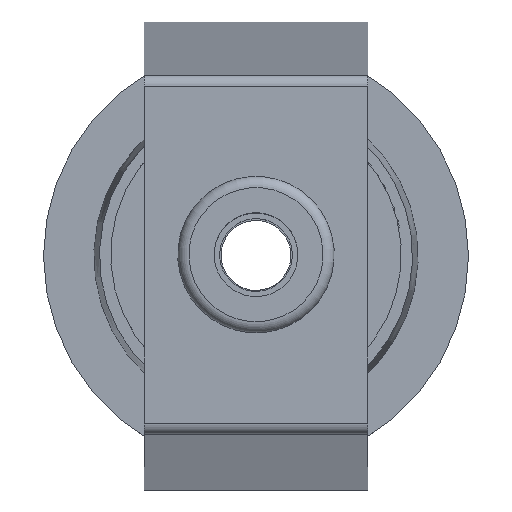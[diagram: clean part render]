
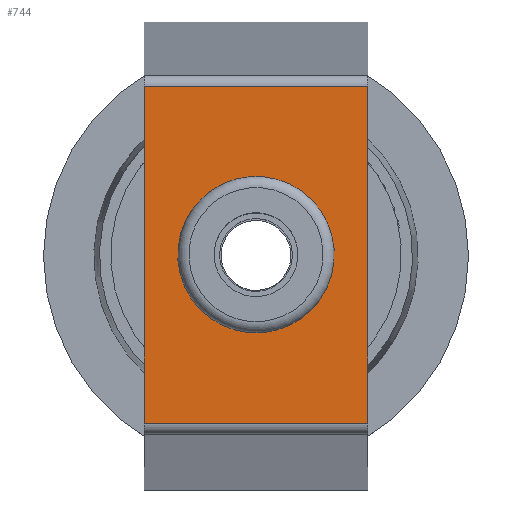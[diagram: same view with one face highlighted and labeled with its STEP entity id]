
A CAD part, top view. The second image highlights one B-rep face of the part: STEP entity #744.
In plain terms, the highlighted planar face has unit normal (0, 0, 1) as drawn and (0, 1, 0) by its records, which use the part's own axes.
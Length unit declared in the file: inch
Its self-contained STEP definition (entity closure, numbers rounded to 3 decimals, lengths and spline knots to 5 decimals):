
#180=CARTESIAN_POINT('',(0.77463,9.00057,0.0));
#181=VERTEX_POINT('',#180);
#182=CARTESIAN_POINT('',(-0.00662,9.00057,0.0));
#183=DIRECTION('',(0.0,-1.0,0.0));
#184=DIRECTION('',(1.0,0.0,0.0));
#185=AXIS2_PLACEMENT_3D('',#182,#183,#184);
#186=CIRCLE('',#185,0.78125);
#187=EDGE_CURVE('',#181,#181,#186,.T.);
#547=CARTESIAN_POINT('',(-1.89,9.00057,-1.25));
#548=VERTEX_POINT('',#547);
#556=CARTESIAN_POINT('',(1.87676,9.00057,-1.25));
#557=VERTEX_POINT('',#556);
#558=CARTESIAN_POINT('',(1.87676,9.00057,-1.25));
#559=DIRECTION('',(-1.0,0.0,0.0));
#560=VECTOR('',#559,3.76676);
#561=LINE('',#558,#560);
#562=EDGE_CURVE('',#557,#548,#561,.T.);
#693=CARTESIAN_POINT('',(-1.89,9.00057,1.25));
#694=VERTEX_POINT('',#693);
#702=CARTESIAN_POINT('',(-1.89,9.00057,1.25));
#703=DIRECTION('',(0.0,0.0,-1.0));
#704=VECTOR('',#703,2.5);
#705=LINE('',#702,#704);
#706=EDGE_CURVE('',#694,#548,#705,.T.);
#718=CARTESIAN_POINT('',(-2.00661,9.00057,0.0));
#719=DIRECTION('',(0.0,1.0,0.0));
#720=DIRECTION('',(0.0,0.0,1.0));
#721=AXIS2_PLACEMENT_3D('',#718,#719,#720);
#722=PLANE('',#721);
#723=ORIENTED_EDGE('',*,*,#706,.F.);
#724=CARTESIAN_POINT('',(1.87676,9.00057,1.25));
#725=VERTEX_POINT('',#724);
#726=CARTESIAN_POINT('',(-1.89,9.00057,1.25));
#727=DIRECTION('',(1.0,0.0,0.0));
#728=VECTOR('',#727,3.76676);
#729=LINE('',#726,#728);
#730=EDGE_CURVE('',#694,#725,#729,.T.);
#731=ORIENTED_EDGE('',*,*,#730,.T.);
#732=CARTESIAN_POINT('',(1.87676,9.00057,-1.25));
#733=DIRECTION('',(0.0,0.0,1.0));
#734=VECTOR('',#733,2.5);
#735=LINE('',#732,#734);
#736=EDGE_CURVE('',#557,#725,#735,.T.);
#737=ORIENTED_EDGE('',*,*,#736,.F.);
#738=ORIENTED_EDGE('',*,*,#562,.T.);
#739=EDGE_LOOP('',(#723,#731,#737,#738));
#740=FACE_OUTER_BOUND('',#739,.T.);
#741=ORIENTED_EDGE('',*,*,#187,.T.);
#742=EDGE_LOOP('',(#741));
#743=FACE_BOUND('',#742,.T.);
#744=ADVANCED_FACE('',(#740,#743),#722,.T.);
